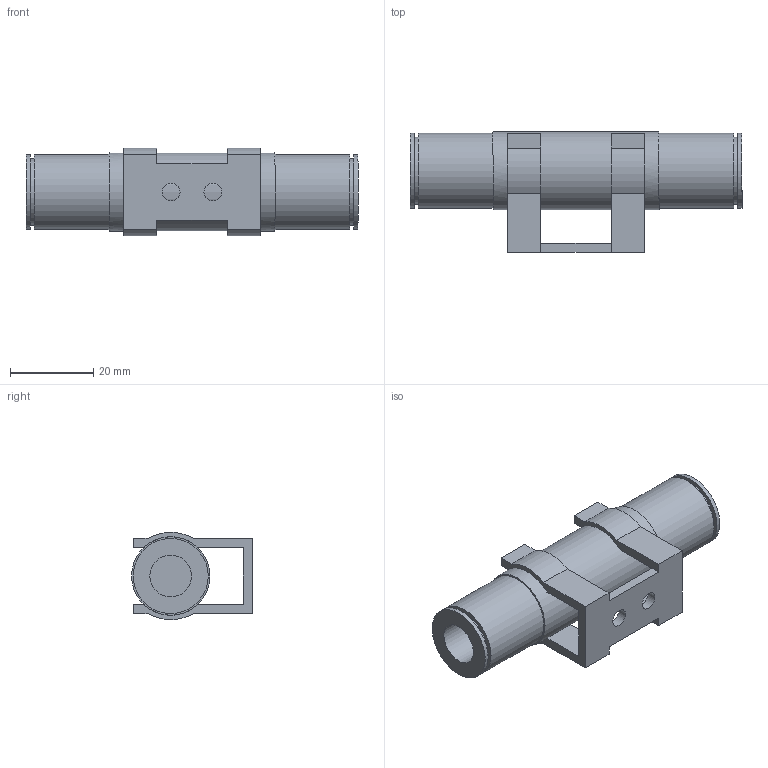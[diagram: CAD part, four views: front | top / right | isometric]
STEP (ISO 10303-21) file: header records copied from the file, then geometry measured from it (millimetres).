
FILE_DESCRIPTION(('STEP AP203'),'1');
FILE_NAME('BCVL-1510-C.stp','2025-07-18T01:01:23',(' '),(' '),'Spatial InterOp 3D',' ',' ');
FILE_SCHEMA(('CONFIG_CONTROL_DESIGN'));
Length unit declared in the file: millimetre
Products named in the file (1): 1
Bounding box: 79.6 x 29 x 20.94 mm (x, y, z)
Volume: 20552.8 mm3; surface area: 9069.9 mm2
Topology: 1 solids, 1 shells, 55 faces, 137 edges, 90 vertices
Faces by surface type: plane 40, cylinder 15
Full cylindrical faces by diameter (mm): 4.3 x2, 10 x2, 16 x2, 18 x4, 18.8 x1
Entity records: 1646 total; most frequent: DIRECTION 276, CARTESIAN_POINT 272, ORIENTED_EDGE 252, EDGE_CURVE 126, AXIS2_PLACEMENT_3D 94, VERTEX_POINT 90, LINE 88, VECTOR 88
